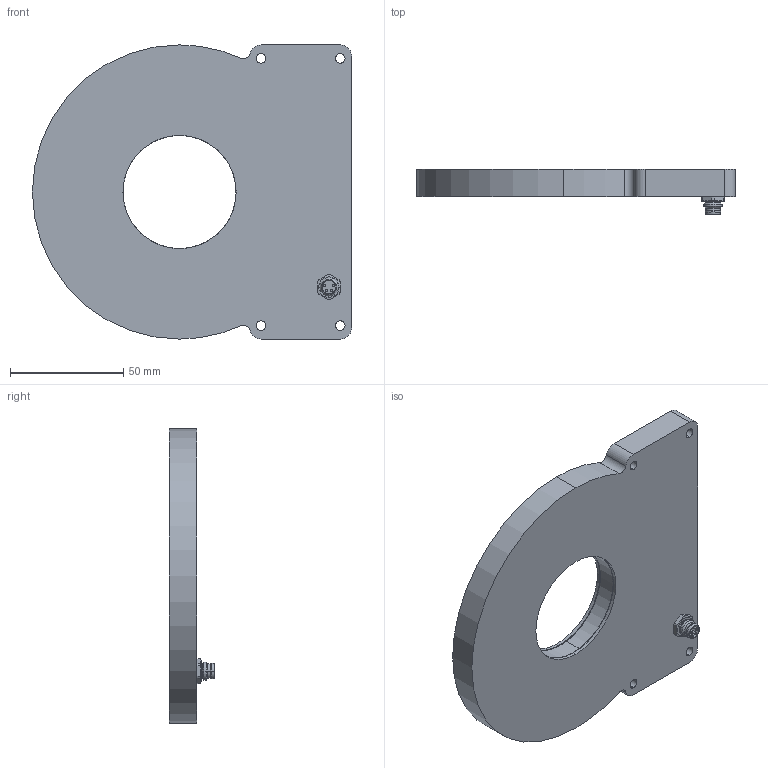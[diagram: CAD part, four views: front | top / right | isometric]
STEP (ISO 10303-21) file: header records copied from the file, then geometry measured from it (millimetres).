
FILE_DESCRIPTION (( 'STEP AP214' ), '1' );
FILE_NAME ('02292.00 Basisbaugruppe HDF-05 step03112020.STEP', '2020-11-03T12:10:27', ( '' ), ( '' ), 'SwSTEP 2.0', 'SolidWorks 2013', '' );
FILE_SCHEMA (( 'AUTOMOTIVE_DESIGN' ));
Length unit declared in the file: millimetre
Products named in the file (1): 02292.00 Basisbaugruppe HDF-05 step03112020
Bounding box: 141 x 20 x 130 mm (x, y, z)
Volume: 145608.7 mm3; surface area: 124982.4 mm2
Topology: 6 solids, 6 shells, 197 faces, 500 edges, 326 vertices
Faces by surface type: cylinder 106, plane 65, cone 18, bspline 8
Entity records: 9045 total; most frequent: CARTESIAN_POINT 1883, DIRECTION 1074, ORIENTED_EDGE 1000, EDGE_CURVE 500, AXIS2_PLACEMENT_3D 426, VERTEX_POINT 326, CIRCLE 236, EDGE_LOOP 228
